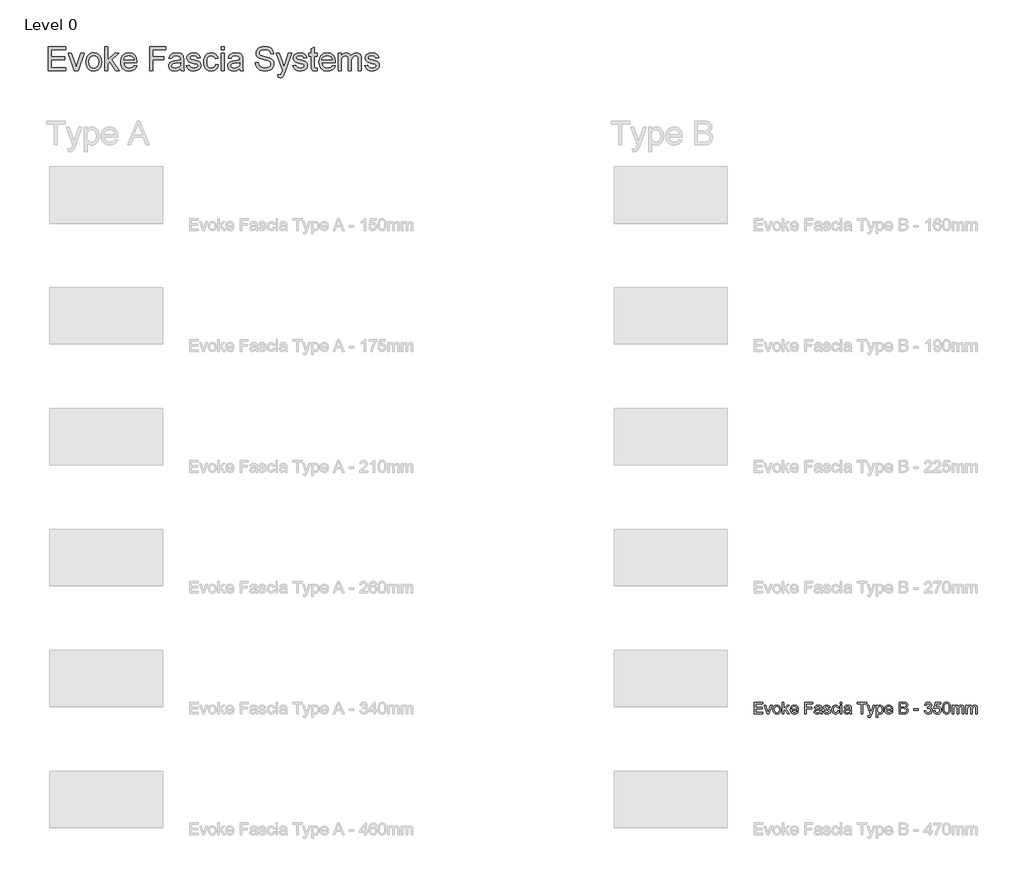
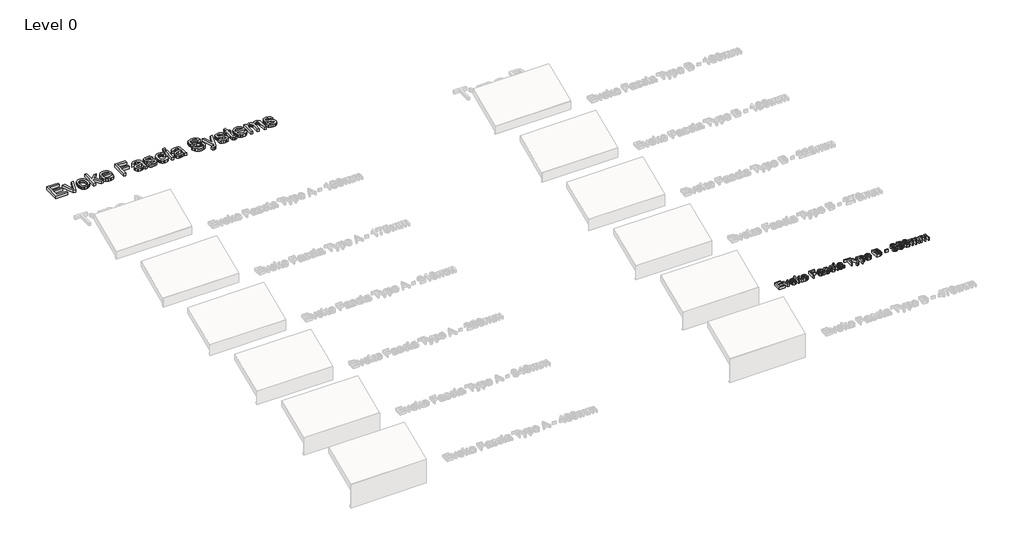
# One storey, part 8 of 13: 2 proxies.
"""IFC4 building model written with IfcOpenShell, lengths in millimetres."""

from ifc_helpers import new_model, si_unit, origin, origin_with_axes, place, context, project, spatial, polyline, outline, extrude, element, save

model = new_model("IFC4")

# Units and contexts
model_context = context("Model", 3, world=origin())
ifc_project = project(units=[si_unit("LENGTHUNIT", "METRE", prefix="MILLI")], contexts=[model_context])

# Site, building, storey
site = spatial("IfcSite", under=ifc_project)
building = spatial("IfcBuilding", under=site)
storey = spatial("IfcBuildingStorey", under=building, Name="Level 0", Elevation=0.0)

# Proxies
placement = place(None, origin())
element("IfcBuildingElementProxy", 1, Name="150mm Arial", ObjectType="150mm Arial", at=placement, inside=storey, context=model_context, shape_type="SweptSolid", body=[
    extrude(outline(polyline([(5568.7201043, 1360.6682311), (5568.7201043, 1508.3605388), (5674.8739504, 1508.3605388), (5674.8739504, 1489.8990003), (5587.1816427, 1489.8990003), (5587.1816427, 1446.0528465), (5670.2585658, 1446.0528465), (5670.2585658, 1427.591308), (5587.1816427, 1427.591308), (5587.1816427, 1379.1297695), (5677.1816427, 1379.1297695), (5677.1816427, 1360.6682311), (5568.7201043, 1360.6682311)])), origin_with_axes(), (0.0, 0.0, 1.0), 50.0),
    extrude(outline(polyline([(5729.176835, 1360.6682311), (5691.0277966, 1469.1297695), (5710.5710658, 1469.1297695), (5733.6840466, 1404.153808), (5740.6431812, 1382.3028465), (5747.458085, 1402.9278465), (5770.7152966, 1469.1297695), (5790.2585658, 1469.1297695), (5752.5782774, 1360.6682311), (5729.176835, 1360.6682311)])), origin_with_axes(), (0.0, 0.0, 1.0), 50.0),
    extrude(outline(polyline([(5801.7970274, 1414.8990003), (5805.7904168, 1441.0498416), (5817.770585, 1459.4302503), (5832.5722677, 1468.435659), (5850.2946235, 1471.4374618), (5869.6891548, 1467.7821133), (5885.1804408, 1456.8160676), (5895.3351884, 1439.4047094), (5898.7201043, 1416.4134234), (5897.22371, 1397.762582), (5892.7345274, 1383.5648657), (5885.3832653, 1372.9323537), (5875.3006331, 1364.9771253), (5863.3249721, 1360.0146854), (5850.2946235, 1358.3605388), (5830.6657173, 1362.0023657), (5815.19246, 1372.9278465), (5805.1458855, 1390.7042888), (5801.7970274, 1414.8990003)]), holes=[polyline([(5820.2585658, 1414.935058), (5822.3949841, 1398.2268248), (5828.8042389, 1386.3232791), (5838.4496716, 1379.1973777), (5850.2946235, 1376.8220772), (5862.0854889, 1379.2108993), (5871.7128927, 1386.3773657), (5878.1221475, 1398.4386638), (5880.2585658, 1415.5119811), (5878.1086259, 1431.7334354), (5871.6588062, 1443.4747215), (5862.0178807, 1450.6006229), (5850.2946235, 1452.9759234), (5838.4496716, 1450.6096373), (5828.8042389, 1443.5107791), (5822.3949841, 1431.6342767), (5820.2585658, 1414.935058)])]), origin_with_axes(), (0.0, 0.0, 1.0), 50.0),
    extrude(outline(polyline([(5919.489335, 1360.6682311), (5919.489335, 1508.3605388), (5937.9508735, 1508.3605388), (5937.9508735, 1428.997558), (5979.3451043, 1469.1297695), (6004.8739504, 1469.1297695), (5962.974912, 1428.4927503), (6007.1816427, 1360.6682311), (5985.6191427, 1360.6682311), (5949.7417389, 1415.6562118), (5937.9508735, 1404.2259234), (5937.9508735, 1360.6682311), (5919.489335, 1360.6682311)])), origin_with_axes(), (0.0, 0.0, 1.0), 50.0),
    extrude(outline(polyline([(6099.2729889, 1392.9759234), (6117.3739504, 1390.6682311), (6110.8520153, 1377.029409), (6100.4448639, 1366.8340965), (6086.3868711, 1360.4789282), (6068.912412, 1358.3605388), (6047.2507533, 1362.0158873), (6030.583085, 1372.981933), (6019.9550802, 1390.5465364), (6016.412412, 1413.997558), (6019.9911379, 1438.2373416), (6030.7273158, 1456.3653465), (6047.1696235, 1467.669433), (6067.8667389, 1471.4374618), (6087.919323, 1467.6784474), (6103.94246, 1456.4014041), (6114.4487701, 1438.309457), (6117.9508735, 1414.1057311), (6117.8427004, 1409.1297695), (6034.8739504, 1409.1297695), (6038.0695634, 1395.310659), (6045.4929408, 1385.1514041), (6056.2065826, 1378.904409), (6069.2729889, 1376.8220772), (6087.3739504, 1380.6802503), (6099.2729889, 1392.9759234)]), holes=[polyline([(6034.8739504, 1427.591308), (6099.489335, 1427.591308), (6096.9923399, 1437.3449138), (6092.0975081, 1444.3220772), (6081.334287, 1450.8124618), (6067.7946235, 1452.9759234), (6055.3502124, 1451.2496614), (6045.0602485, 1446.0708753), (6037.9073038, 1437.9984594), (6034.8739504, 1427.591308)])]), origin_with_axes(), (0.0, 0.0, 1.0), 50.0),
    extrude(outline(polyline([(6196.412412, 1360.6682311), (6196.412412, 1508.3605388), (6295.6431812, 1508.3605388), (6295.6431812, 1489.8990003), (6214.8739504, 1489.8990003), (6214.8739504, 1446.0528465), (6284.1047197, 1446.0528465), (6284.1047197, 1427.591308), (6214.8739504, 1427.591308), (6214.8739504, 1360.6682311), (6196.412412, 1360.6682311)])), origin_with_axes(), (0.0, 0.0, 1.0), 50.0),
    extrude(outline(polyline([(6387.9508735, 1374.5143849), (6370.0482293, 1362.0023657), (6350.270585, 1358.3605388), (6334.8423999, 1360.5510436), (6323.4616908, 1367.122558), (6316.4439624, 1377.1015243), (6314.1047197, 1389.5143849), (6317.6383735, 1404.1177503), (6326.9232293, 1414.7187118), (6339.849912, 1420.7764041), (6355.8234697, 1423.5528465), (6387.8427004, 1429.8990003), (6387.9508735, 1434.0095772), (6386.6798399, 1442.2487599), (6382.8667389, 1447.6393849), (6374.3390947, 1451.6417888), (6362.458085, 1452.9759234), (6343.7802004, 1449.4242407), (6334.8739504, 1436.8220772), (6316.412412, 1439.1297695), (6324.3991908, 1457.1586157), (6340.4809216, 1467.7235195), (6364.8378927, 1471.4374618), (6387.2116908, 1468.1562118), (6399.849912, 1459.9170291), (6405.5109697, 1447.3869811), (6406.412412, 1431.2331349), (6406.412412, 1408.2643849), (6407.349912, 1376.1910676), (6411.0277966, 1360.6682311), (6392.5662581, 1360.6682311), (6387.9508735, 1374.5143849)]), holes=[polyline([(6387.9508735, 1411.4374618), (6358.1672197, 1405.7764041), (6342.2838062, 1402.7836157), (6335.0902966, 1397.9158272), (6332.5662581, 1390.8124618), (6338.0650562, 1380.8244811), (6354.2008735, 1376.8220772), (6372.8787581, 1381.2391445), (6384.9220274, 1391.9302503), (6387.8427004, 1406.2090965), (6387.9508735, 1411.4374618)])]), origin_with_axes(), (0.0, 0.0, 1.0), 50.0),
    extrude(outline(polyline([(6424.8739504, 1392.9759234), (6443.3354889, 1395.2836157), (6446.2471475, 1387.3869811), (6451.881162, 1381.5816926), (6471.4604889, 1376.8220772), (6490.2826043, 1381.185058), (6496.412412, 1391.4254426), (6490.2465466, 1399.7187118), (6471.2441427, 1404.9831349), (6443.443662, 1414.0155868), (6431.3102485, 1424.5624618), (6427.1816427, 1439.4542888), (6430.4989504, 1453.2102984), (6439.5494312, 1463.7211157), (6451.28621, 1469.1838561), (6467.1696235, 1471.4374618), (6489.6335658, 1467.8136638), (6503.912412, 1458.0059715), (6510.2585658, 1441.4374618), (6491.7970274, 1439.1297695), (6484.8559216, 1449.3160676), (6468.6119312, 1452.9759234), (6450.943662, 1449.4783272), (6445.6431812, 1441.3292888), (6447.8427004, 1435.9566926), (6454.7297197, 1431.8821734), (6470.631162, 1427.9518849), (6497.7285177, 1419.2619811), (6510.3126524, 1409.4182311), (6514.8739504, 1393.372558), (6509.5193831, 1375.7042888), (6494.068662, 1362.8857791), (6471.208085, 1358.3605388), (6452.5933014, 1360.5420291), (6439.0085658, 1367.0865003), (6429.9400562, 1377.9218368), (6424.8739504, 1392.9759234)])), origin_with_axes(), (0.0, 0.0, 1.0), 50.0),
    extrude(outline(polyline([(6604.8739504, 1399.8990003), (6623.3354889, 1397.591308), (6618.1882533, 1381.1715364), (6608.5157774, 1368.763183), (6595.2285177, 1360.9611998), (6579.2369312, 1358.3605388), (6559.5990105, 1361.9888441), (6544.2429408, 1372.8737599), (6534.3315826, 1390.5375219), (6531.0277966, 1414.5023657), (6536.6708254, 1445.169433), (6543.7922197, 1456.6673296), (6553.8703447, 1464.8749618), (6565.9271355, 1469.7968368), (6578.9845274, 1471.4374618), (6594.5839865, 1469.1838561), (6607.0554408, 1462.4230388), (6616.0022557, 1451.5155868), (6621.0277966, 1436.8220772), (6602.5662581, 1434.5143849), (6594.0025562, 1448.3425099), (6579.1287581, 1452.9759234), (6567.1981692, 1450.6952743), (6557.7285177, 1443.8533272), (6551.5491307, 1432.0804907), (6549.489335, 1415.0071734), (6551.5040586, 1397.7039883), (6557.5482293, 1385.8905868), (6566.8466067, 1379.0892046), (6578.6239504, 1376.8220772), (6588.1837461, 1378.2373416), (6596.021787, 1382.4831349), (6601.7234096, 1389.6676301), (6604.8739504, 1399.8990003)])), origin_with_axes(), (0.0, 0.0, 1.0), 50.0),
    extrude(outline(polyline([(6639.489335, 1489.8990003), (6639.489335, 1508.3605388), (6657.9508735, 1508.3605388), (6657.9508735, 1489.8990003), (6639.489335, 1489.8990003)])), origin_with_axes(), (0.0, 0.0, 1.0), 50.0),
    extrude(outline(polyline([(6639.489335, 1360.6682311), (6639.489335, 1469.1297695), (6657.9508735, 1469.1297695), (6657.9508735, 1360.6682311), (6639.489335, 1360.6682311)])), origin_with_axes(), (0.0, 0.0, 1.0), 50.0),
    extrude(outline(polyline([(6754.8739504, 1374.5143849), (6736.9713062, 1362.0023657), (6717.193662, 1358.3605388), (6701.7654769, 1360.5510436), (6690.3847677, 1367.122558), (6683.3670394, 1377.1015243), (6681.0277966, 1389.5143849), (6684.5614504, 1404.1177503), (6693.8463062, 1414.7187118), (6706.7729889, 1420.7764041), (6722.7465466, 1423.5528465), (6754.7657774, 1429.8990003), (6754.8739504, 1434.0095772), (6753.6029168, 1442.2487599), (6749.7898158, 1447.6393849), (6741.2621716, 1451.6417888), (6729.381162, 1452.9759234), (6710.7032774, 1449.4242407), (6701.7970274, 1436.8220772), (6683.3354889, 1439.1297695), (6691.3222677, 1457.1586157), (6707.4039985, 1467.7235195), (6731.7609697, 1471.4374618), (6754.1347677, 1468.1562118), (6766.7729889, 1459.9170291), (6772.4340466, 1447.3869811), (6773.3354889, 1431.2331349), (6773.3354889, 1408.2643849), (6774.2729889, 1376.1910676), (6777.9508735, 1360.6682311), (6759.489335, 1360.6682311), (6754.8739504, 1374.5143849)]), holes=[polyline([(6754.8739504, 1411.4374618), (6725.0902966, 1405.7764041), (6709.2068831, 1402.7836157), (6702.0133735, 1397.9158272), (6699.489335, 1390.8124618), (6704.9881331, 1380.8244811), (6721.1239504, 1376.8220772), (6739.801835, 1381.2391445), (6751.8451043, 1391.9302503), (6754.7657774, 1406.2090965), (6754.8739504, 1411.4374618)])]), origin_with_axes(), (0.0, 0.0, 1.0), 50.0),
    extrude(outline(polyline([(6895.6431812, 1360.6682311), (6895.6431812, 1489.8990003), (6847.1816427, 1489.8990003), (6847.1816427, 1508.3605388), (6962.5662581, 1508.3605388), (6962.5662581, 1489.8990003), (6914.1047197, 1489.8990003), (6914.1047197, 1360.6682311), (6895.6431812, 1360.6682311)])), origin_with_axes(), (0.0, 0.0, 1.0), 50.0),
    extrude(outline(polyline([(6981.0277966, 1319.1297695), (6978.7201043, 1336.9062118), (6988.0951043, 1335.2836157), (6996.8571235, 1337.3208753), (7002.2297197, 1342.9999618), (7007.2777966, 1356.5937118), (7008.7201043, 1361.0648657), (6969.489335, 1469.1297695), (6988.9604889, 1469.1297695), (7009.7657774, 1408.9134234), (7017.0133735, 1384.8268849), (7024.2609697, 1406.1009234), (7045.6431812, 1469.1297695), (7064.9701043, 1469.1297695), (7027.2177004, 1358.0720772), (7017.4100081, 1333.9855388), (7006.7008735, 1320.9687118), (6992.3138543, 1316.8220772), (6981.0277966, 1319.1297695)])), origin_with_axes(), (0.0, 0.0, 1.0), 50.0),
    extrude(outline(polyline([(7080.2585658, 1319.1297695), (7080.2585658, 1469.1297695), (7098.7201043, 1469.1297695), (7098.7201043, 1451.028808), (7111.4845274, 1466.3352984), (7128.7201043, 1471.4374618), (7141.2050802, 1469.6526061), (7152.1215466, 1464.2980388), (7161.0097677, 1455.6982791), (7167.4100081, 1444.1778465), (7172.5662581, 1415.7283272), (7171.1104288, 1399.9395652), (7166.7429408, 1385.8184715), (7159.6035177, 1374.0816926), (7149.8318831, 1365.4458753), (7138.451174, 1360.1318729), (7126.4845274, 1358.3605388), (7110.4208254, 1363.1021253), (7098.7201043, 1375.091308), (7098.7201043, 1319.1297695), (7080.2585658, 1319.1297695)]), holes=[polyline([(7098.7201043, 1414.0336157), (7100.716799, 1397.4831349), (7106.7068831, 1385.9086157), (7115.5455249, 1379.0937118), (7126.0878927, 1376.8220772), (7136.8015346, 1379.1748416), (7145.865537, 1386.2331349), (7152.044924, 1398.231332), (7154.1047197, 1415.403808), (7152.0945033, 1431.8641445), (7146.0638543, 1443.6009234), (7137.2387341, 1450.6321734), (7126.8451043, 1452.9759234), (7116.4109096, 1450.4834354), (7107.2477485, 1443.0059715), (7100.8520153, 1430.7779066), (7098.7201043, 1414.0336157)])]), origin_with_axes(), (0.0, 0.0, 1.0), 50.0),
    extrude(outline(polyline([(7269.2729889, 1392.9759234), (7287.3739504, 1390.6682311), (7280.8520153, 1377.029409), (7270.4448639, 1366.8340965), (7256.3868711, 1360.4789282), (7238.912412, 1358.3605388), (7217.2507533, 1362.0158873), (7200.583085, 1372.981933), (7189.9550802, 1390.5465364), (7186.412412, 1413.997558), (7189.9911379, 1438.2373416), (7200.7273158, 1456.3653465), (7217.1696235, 1467.669433), (7237.8667389, 1471.4374618), (7257.919323, 1467.6784474), (7273.94246, 1456.4014041), (7284.4487701, 1438.309457), (7287.9508735, 1414.1057311), (7287.8427004, 1409.1297695), (7204.8739504, 1409.1297695), (7208.0695634, 1395.310659), (7215.4929408, 1385.1514041), (7226.2065826, 1378.904409), (7239.2729889, 1376.8220772), (7257.3739504, 1380.6802503), (7269.2729889, 1392.9759234)]), holes=[polyline([(7204.8739504, 1427.591308), (7269.489335, 1427.591308), (7266.9923399, 1437.3449138), (7262.0975081, 1444.3220772), (7251.334287, 1450.8124618), (7237.7946235, 1452.9759234), (7225.3502124, 1451.2496614), (7215.0602485, 1446.0708753), (7207.9073038, 1437.9984594), (7204.8739504, 1427.591308)])]), origin_with_axes(), (0.0, 0.0, 1.0), 50.0),
    extrude(outline(polyline([(7366.412412, 1360.6682311), (7366.412412, 1508.3605388), (7422.770585, 1508.3605388), (7450.3727485, 1504.0155868), (7459.6485899, 1498.5032671), (7466.6708254, 1490.6562118), (7472.5662581, 1471.7619811), (7467.6083254, 1454.5083753), (7452.6263543, 1441.4374618), (7463.0875923, 1435.9747215), (7470.81746, 1427.6634234), (7475.5905971, 1417.0534474), (7477.1816427, 1404.6946734), (7472.8366908, 1384.8449138), (7462.0734697, 1370.7102984), (7446.0097677, 1363.2102984), (7422.3378927, 1360.6682311), (7366.412412, 1360.6682311)]), holes=[polyline([(7384.8739504, 1448.3605388), (7418.5878927, 1448.3605388), (7438.2753927, 1449.9470772), (7450.1203447, 1456.7800099), (7454.1047197, 1468.8052503), (7450.3907774, 1480.8485195), (7439.7537581, 1487.9699138), (7416.0277966, 1489.8990003), (7384.8739504, 1489.8990003), (7384.8739504, 1448.3605388)]), polyline([(7384.8739504, 1379.1297695), (7422.7345274, 1379.1297695), (7436.4364504, 1379.8509234), (7448.0289985, 1383.8713561), (7455.709287, 1392.0744811), (7458.7201043, 1404.5143849), (7455.1864504, 1418.8653465), (7443.7381331, 1427.4290484), (7420.9316427, 1429.8990003), (7384.8739504, 1429.8990003), (7384.8739504, 1379.1297695)])]), origin_with_axes(), (0.0, 0.0, 1.0), 50.0),
    extrude(outline(polyline([(7548.7201043, 1404.5143849), (7548.7201043, 1422.9759234), (7606.412412, 1422.9759234), (7606.412412, 1404.5143849), (7548.7201043, 1404.5143849)])), origin_with_axes(), (0.0, 0.0, 1.0), 50.0),
    extrude(outline(polyline([(7680.2585658, 1399.8990003), (7698.7201043, 1402.2066926), (7702.8532173, 1390.6051301), (7708.9064024, 1382.7715965), (7717.1771355, 1378.309457), (7727.9628927, 1376.8220772), (7740.6191427, 1378.8683513), (7750.3907774, 1385.0071734), (7756.6377725, 1394.1658272), (7758.7201043, 1405.2715965), (7756.6558014, 1415.8139642), (7750.4628927, 1424.3641445), (7741.0878927, 1430.0297094), (7729.4773158, 1431.9182311), (7716.5326043, 1429.8990003), (7718.5878927, 1448.3605388), (7721.5446235, 1448.1441926), (7742.4941427, 1453.4446734), (7749.4713062, 1460.169433), (7751.7970274, 1469.7427503), (7750.1113302, 1477.7160075), (7745.0542389, 1484.1838561), (7737.3378927, 1488.4702142), (7727.6744312, 1489.8990003), (7717.9929408, 1488.4566926), (7710.0782774, 1484.1297695), (7704.3000322, 1476.9182311), (7701.0277966, 1466.8220772), (7682.5662581, 1469.1297695), (7688.0019552, 1485.7072936), (7697.6744312, 1498.0840965), (7710.9076043, 1505.7914282), (7727.0253927, 1508.3605388), (7749.2910177, 1503.294433), (7764.8679408, 1489.4482791), (7770.2585658, 1470.8244811), (7765.1383735, 1453.8052503), (7749.9941427, 1441.5816926), (7761.5506331, 1436.9122215), (7770.114335, 1428.9615003), (7775.4148158, 1418.1622215), (7777.1816427, 1404.9470772), (7773.6479889, 1386.9542888), (7763.0470274, 1371.9182311), (7747.0464264, 1361.7499618), (7727.3138543, 1358.3605388), (7709.4652966, 1361.2541686), (7694.9340466, 1369.935058), (7684.8288783, 1383.2133032), (7680.2585658, 1399.8990003)])), origin_with_axes(), (0.0, 0.0, 1.0), 50.0),
    extrude(outline(polyline([(7793.3354889, 1399.8990003), (7811.7970274, 1402.2066926), (7815.1864504, 1391.1234594), (7821.099912, 1383.1862599), (7829.5103687, 1378.4131229), (7840.3907774, 1376.8220772), (7853.6239504, 1379.0351181), (7863.5398158, 1385.6742407), (7869.7327245, 1395.9732191), (7871.7970274, 1409.1658272), (7869.8634336, 1421.5877022), (7864.0626524, 1431.0889041), (7854.3496115, 1437.1195532), (7840.6792389, 1439.1297695), (7824.4713062, 1435.9206349), (7814.1047197, 1427.591308), (7795.6431812, 1429.8990003), (7811.7970274, 1506.0528465), (7883.3354889, 1506.0528465), (7883.3354889, 1487.591308), (7826.724912, 1487.591308), (7818.8282774, 1446.9182311), (7832.0163783, 1454.9230388), (7845.8354889, 1457.591308), (7863.0845874, 1454.2830147), (7877.4039985, 1444.3581349), (7887.044924, 1429.231933), (7890.2585658, 1410.3196734), (7887.364936, 1391.8581349), (7878.6840466, 1376.0648657), (7862.0614504, 1362.7866205), (7840.318662, 1358.3605388), (7822.1861499, 1361.2045892), (7807.740537, 1369.7367407), (7797.8381932, 1382.9654066), (7793.3354889, 1399.8990003)])), origin_with_axes(), (0.0, 0.0, 1.0), 50.0),
    extrude(outline(polyline([(7906.412412, 1433.3244811), (7907.7690826, 1456.9648056), (7911.8390947, 1475.8184715), (7918.5818831, 1490.1739402), (7927.9568831, 1500.3196734), (7940.0317028, 1506.3503224), (7954.8739504, 1508.3605388), (7976.4364504, 1503.6009234), (7991.3282774, 1489.8809715), (7999.9821235, 1468.0300099), (8003.3354889, 1433.3244811), (8001.9923399, 1409.8193729), (7997.9628927, 1391.0107791), (7991.2606692, 1376.6417888), (7981.8991908, 1366.4554907), (7969.7973278, 1360.3842767), (7954.8739504, 1358.3605388), (7935.6912581, 1361.8761638), (7921.1239504, 1372.4230388), (7910.0902966, 1397.4020051), (7906.412412, 1433.3244811)]), holes=[polyline([(7924.8739504, 1433.3605388), (7927.037412, 1404.3205748), (7933.5277966, 1387.513183), (7943.1912581, 1379.4948537), (7954.8739504, 1376.8220772), (7966.5566427, 1379.5038681), (7976.2201043, 1387.5492407), (7982.7104889, 1404.3656469), (7984.8739504, 1433.3605388), (7982.7826043, 1461.746957), (7976.5085658, 1478.685058), (7966.8631331, 1487.0955147), (7954.6576043, 1489.8990003), (7943.1011139, 1487.4290484), (7933.8162581, 1480.0191926), (7927.1095274, 1462.0264041), (7924.8739504, 1433.3605388)])]), origin_with_axes(), (0.0, 0.0, 1.0), 50.0),
    extrude(outline(polyline([(8024.1047197, 1360.6682311), (8024.1047197, 1469.1297695), (8042.5662581, 1469.1297695), (8042.5662581, 1451.2812118), (8055.2585658, 1465.9026061), (8073.3234697, 1471.4374618), (8083.5908975, 1470.0267046), (8091.8210658, 1465.794433), (8101.989335, 1449.9831349), (8116.3943831, 1466.0738801), (8134.5854889, 1471.4374618), (8148.4631932, 1469.2063921), (8158.7261139, 1462.513183), (8165.0677605, 1451.177546), (8167.1816427, 1435.0191926), (8167.1816427, 1360.6682311), (8148.7201043, 1360.6682311), (8148.7201043, 1427.0865003), (8147.0073639, 1442.5011638), (8140.8054408, 1450.091308), (8130.2585658, 1452.9759234), (8120.2570634, 1451.1279666), (8112.1035177, 1445.5840965), (8106.6813423, 1435.965707), (8104.8739504, 1421.8941926), (8104.8739504, 1360.6682311), (8086.412412, 1360.6682311), (8086.412412, 1429.1417888), (8082.1395754, 1447.0264041), (8076.5010538, 1451.4885436), (8068.131162, 1452.9759234), (8054.4652966, 1449.0095772), (8045.3787581, 1437.3990003), (8042.5662581, 1415.3677503), (8042.5662581, 1360.6682311), (8024.1047197, 1360.6682311)])), origin_with_axes(), (0.0, 0.0, 1.0), 50.0),
    extrude(outline(polyline([(8194.8739504, 1360.6682311), (8194.8739504, 1469.1297695), (8213.3354889, 1469.1297695), (8213.3354889, 1451.2812118), (8226.0277966, 1465.9026061), (8244.0927004, 1471.4374618), (8254.3601283, 1470.0267046), (8262.5902966, 1465.794433), (8272.7585658, 1449.9831349), (8287.1636139, 1466.0738801), (8305.3547197, 1471.4374618), (8319.232424, 1469.2063921), (8329.4953447, 1462.513183), (8335.8369913, 1451.177546), (8337.9508735, 1435.0191926), (8337.9508735, 1360.6682311), (8319.489335, 1360.6682311), (8319.489335, 1427.0865003), (8317.7765947, 1442.5011638), (8311.5746716, 1450.091308), (8301.0277966, 1452.9759234), (8291.0262942, 1451.1279666), (8282.8727485, 1445.5840965), (8277.450573, 1435.965707), (8275.6431812, 1421.8941926), (8275.6431812, 1360.6682311), (8257.1816427, 1360.6682311), (8257.1816427, 1429.1417888), (8252.9088062, 1447.0264041), (8247.2702846, 1451.4885436), (8238.9003927, 1452.9759234), (8225.2345274, 1449.0095772), (8216.1479889, 1437.3990003), (8213.3354889, 1415.3677503), (8213.3354889, 1360.6682311), (8194.8739504, 1360.6682311)])), origin_with_axes(), (0.0, 0.0, 1.0), 50.0),
])
element("IfcBuildingElementProxy", 2, Name="300mm Arial", ObjectType="300mm Arial", at=placement, inside=storey, context=model_context, shape_type="SweptSolid", body=[
    extrude(outline(polyline([(-3182.8930025, 9342.9991301), (-3182.8930025, 9638.3837455), (-2970.5853102, 9638.3837455), (-2970.5853102, 9601.4606686), (-3145.9699256, 9601.4606686), (-3145.9699256, 9513.7683609), (-2979.8160795, 9513.7683609), (-2979.8160795, 9476.845284), (-3145.9699256, 9476.845284), (-3145.9699256, 9379.9222071), (-2965.9699256, 9379.9222071), (-2965.9699256, 9342.9991301), (-3182.8930025, 9342.9991301)])), origin_with_axes(), (0.0, 0.0, 1.0), 50.0),
    extrude(outline(polyline([(-2861.979541, 9342.9991301), (-2938.2776179, 9559.9222071), (-2899.1910795, 9559.9222071), (-2852.9651179, 9429.970284), (-2839.0468487, 9386.2683609), (-2825.417041, 9427.5183609), (-2778.9026179, 9559.9222071), (-2739.8160795, 9559.9222071), (-2815.1766564, 9342.9991301), (-2861.979541, 9342.9991301)])), origin_with_axes(), (0.0, 0.0, 1.0), 50.0),
    extrude(outline(polyline([(-2716.7391564, 9451.4606686), (-2714.7424617, 9479.5541181), (-2708.7523775, 9503.7623513), (-2698.768904, 9524.0853681), (-2684.792041, 9540.5231686), (-2670.7205266, 9551.0294787), (-2655.1886756, 9558.5339859), (-2638.1964881, 9563.0366902), (-2619.7439641, 9564.5375917), (-2599.3736215, 9562.7099174), (-2580.9549016, 9557.2268946), (-2564.4878042, 9548.0885232), (-2549.9723295, 9535.2948032), (-2538.1251239, 9519.278427), (-2529.6628343, 9500.4720869), (-2524.5854605, 9478.8757828), (-2522.8930025, 9454.4895147), (-2525.885791, 9417.1878321), (-2534.8641564, 9388.7923994), (-2549.5666804, 9367.5273753), (-2569.7319448, 9351.6169186), (-2593.683267, 9341.6920388), (-2619.7439641, 9338.3837455), (-2640.4117826, 9340.204659), (-2659.0017766, 9345.6673994), (-2675.513946, 9354.7719667), (-2689.948291, 9367.5183609), (-2701.6692946, 9383.6902359), (-2710.04144, 9403.0712455), (-2715.0647273, 9425.6613897), (-2716.7391564, 9451.4606686)]), holes=[polyline([(-2679.8160795, 9451.532784), (-2675.5432429, 9418.1163176), (-2662.7247333, 9394.3092263), (-2643.4338679, 9380.0574234), (-2619.7439641, 9375.3068224), (-2596.1622333, 9380.0844667), (-2576.9074256, 9394.4173994), (-2564.088916, 9418.5399955), (-2559.8160795, 9452.6866301), (-2564.1159593, 9485.1295388), (-2577.0155987, 9508.6121109), (-2596.2974497, 9522.8639138), (-2619.7439641, 9527.6145147), (-2643.4338679, 9522.8819426), (-2662.7247333, 9508.6842263), (-2675.5432429, 9484.9312215), (-2679.8160795, 9451.532784)])]), origin_with_axes(), (0.0, 0.0, 1.0), 50.0),
    extrude(outline(polyline([(-2481.354541, 9342.9991301), (-2481.354541, 9638.3837455), (-2444.4314641, 9638.3837455), (-2444.4314641, 9479.657784), (-2361.6430025, 9559.9222071), (-2310.5853102, 9559.9222071), (-2394.3833872, 9478.6481686), (-2305.9699256, 9342.9991301), (-2349.0949256, 9342.9991301), (-2420.8497333, 9452.9750917), (-2444.4314641, 9430.1145147), (-2444.4314641, 9342.9991301), (-2481.354541, 9342.9991301)])), origin_with_axes(), (0.0, 0.0, 1.0), 50.0),
    extrude(outline(polyline([(-2121.7872333, 9407.6145147), (-2085.5853102, 9402.9991301), (-2098.6291804, 9375.7214859), (-2119.4434833, 9355.3308609), (-2147.5594689, 9342.6205244), (-2182.5083872, 9338.3837455), (-2205.4185434, 9340.2114198), (-2225.8317045, 9345.6944426), (-2243.7478703, 9354.832814), (-2259.167041, 9367.626534), (-2271.5663799, 9383.7195328), (-2280.4230506, 9402.7557407), (-2285.737053, 9424.7351578), (-2287.5083872, 9449.657784), (-2285.7190242, 9475.4255123), (-2280.3509352, 9498.1373513), (-2271.4041203, 9517.7933008), (-2258.8785795, 9534.3933609), (-2243.4999737, 9547.5814619), (-2225.9939641, 9557.001534), (-2206.3605506, 9562.6535772), (-2184.5997333, 9564.5375917), (-2163.5397874, 9562.6580845), (-2144.494565, 9557.0195628), (-2127.4640662, 9547.6220268), (-2112.448291, 9534.4654763), (-2100.1909292, 9517.9014739), (-2091.4356708, 9498.2815821), (-2086.1825158, 9475.6058008), (-2084.4314641, 9449.8741301), (-2084.6478102, 9439.9222071), (-2250.5853102, 9439.9222071), (-2244.1940843, 9412.2839859), (-2229.3473295, 9391.9654763), (-2207.9200458, 9379.4714859), (-2181.7872333, 9375.3068224), (-2162.135791, 9377.235909), (-2145.5853102, 9383.0231686), (-2132.135791, 9393.0291782), (-2121.7872333, 9407.6145147)]), holes=[polyline([(-2250.5853102, 9476.845284), (-2121.354541, 9476.845284), (-2126.3485314, 9496.3524955), (-2136.1381948, 9510.3068224), (-2157.6646372, 9523.2875917), (-2184.7439641, 9527.6145147), (-2209.6327862, 9524.1619907), (-2230.2127141, 9513.8044186), (-2244.5186035, 9497.6595869), (-2250.5853102, 9476.845284)])]), origin_with_axes(), (0.0, 0.0, 1.0), 50.0),
    extrude(outline(polyline([(-1927.5083872, 9342.9991301), (-1927.5083872, 9638.3837455), (-1729.0468487, 9638.3837455), (-1729.0468487, 9601.4606686), (-1890.5853102, 9601.4606686), (-1890.5853102, 9513.7683609), (-1752.1237718, 9513.7683609), (-1752.1237718, 9476.845284), (-1890.5853102, 9476.845284), (-1890.5853102, 9342.9991301), (-1927.5083872, 9342.9991301)])), origin_with_axes(), (0.0, 0.0, 1.0), 50.0),
    extrude(outline(polyline([(-1544.4314641, 9370.6914378), (-1562.07269, 9355.5652359), (-1580.2367525, 9345.6673994), (-1599.338315, 9340.204659), (-1619.792041, 9338.3837455), (-1650.6484112, 9342.7647551), (-1673.4098295, 9355.907784), (-1687.4452862, 9375.8657167), (-1692.1237718, 9400.6914378), (-1690.3569448, 9415.9979282), (-1685.0564641, 9429.8981686), (-1676.8803823, 9441.7972071), (-1666.4867525, 9451.1000917), (-1640.6333872, 9463.2154763), (-1608.6862718, 9468.7683609), (-1570.9338679, 9474.6097071), (-1544.6478102, 9481.4606686), (-1544.4314641, 9489.6818224), (-1546.9735314, 9506.1601878), (-1554.5997333, 9516.9414378), (-1571.6550218, 9524.9462455), (-1595.417041, 9527.6145147), (-1617.4122333, 9525.8386734), (-1632.7728102, 9520.5111494), (-1643.2475698, 9510.6583849), (-1650.5853102, 9495.3068224), (-1687.5083872, 9499.9222071), (-1681.0991323, 9520.1145147), (-1671.5348295, 9535.9798994), (-1657.9230506, 9548.1133128), (-1639.3713679, 9557.1097071), (-1616.682065, 9562.6806205), (-1590.6574256, 9564.5375917), (-1565.6964881, 9562.8969667), (-1545.9098295, 9557.9750917), (-1530.9909593, 9550.5742503), (-1520.6333872, 9541.4967263), (-1513.7643968, 9530.2737696), (-1509.3112718, 9516.4366301), (-1507.5083872, 9484.1289378), (-1507.5083872, 9438.1914378), (-1505.6333872, 9374.0448032), (-1498.2776179, 9342.9991301), (-1535.2006948, 9342.9991301), (-1544.4314641, 9370.6914378)]), holes=[polyline([(-1544.4314641, 9444.5375917), (-1603.9987718, 9433.2154763), (-1635.7655987, 9427.2298994), (-1650.1526179, 9417.4943224), (-1655.2006948, 9403.2875917), (-1652.4512958, 9392.3080244), (-1644.2030987, 9383.3116301), (-1630.636392, 9377.3080244), (-1611.9314641, 9375.3068224), (-1592.0997333, 9377.5153561), (-1574.5756948, 9384.1409571), (-1560.3689641, 9393.9035772), (-1550.4891564, 9405.5231686), (-1546.1081468, 9417.4943224), (-1544.6478102, 9434.0808609), (-1544.4314641, 9444.5375917)])]), origin_with_axes(), (0.0, 0.0, 1.0), 50.0),
    extrude(outline(polyline([(-1470.5853102, 9407.6145147), (-1433.6622333, 9412.2298994), (-1427.838916, 9396.4366301), (-1416.5708872, 9384.8260532), (-1399.7860314, 9377.6866301), (-1377.4122333, 9375.3068224), (-1355.3088679, 9377.4883128), (-1339.7680025, 9384.032784), (-1330.573291, 9393.5159571), (-1327.5083872, 9404.5135532), (-1330.5913198, 9413.9246109), (-1339.8401179, 9421.1000917), (-1377.8449256, 9431.6289378), (-1433.4458872, 9449.6938417), (-1447.5174016, 9458.7713657), (-1457.7127141, 9470.7875917), (-1463.9056227, 9484.9762936), (-1465.9699256, 9500.5712455), (-1464.3112718, 9514.8771349), (-1459.3353102, 9528.0832647), (-1451.4927622, 9539.6667984), (-1441.2343487, 9549.1048994), (-1417.760791, 9560.0303801), (-1385.9939641, 9564.5375917), (-1361.9615122, 9562.7256926), (-1341.0660795, 9557.2899955), (-1324.2631948, 9548.7623513), (-1312.5083872, 9537.6746109), (-1304.7199256, 9523.2064619), (-1299.8160795, 9504.5375917), (-1336.7391564, 9499.9222071), (-1341.3996131, 9511.5417984), (-1350.6213679, 9520.2948032), (-1364.494565, 9525.7845869), (-1383.1093487, 9527.6145147), (-1404.3112718, 9525.8657167), (-1418.4458872, 9520.6193224), (-1426.3966083, 9513.0472071), (-1429.0468487, 9504.3212455), (-1424.6478102, 9493.5760532), (-1410.8737718, 9485.4270147), (-1379.0708872, 9477.5664378), (-1324.8761756, 9460.1866301), (-1310.5612718, 9451.8753321), (-1299.7079064, 9440.4991301), (-1292.8659593, 9426.0219667), (-1290.5853102, 9408.407784), (-1293.2625939, 9390.1986494), (-1301.2944448, 9373.0712455), (-1314.3743727, 9358.3687215), (-1332.1958872, 9347.4342263), (-1353.7223295, 9340.6463657), (-1377.917041, 9338.3837455), (-1415.1466083, 9342.7467263), (-1442.3160795, 9355.8356686), (-1460.4530987, 9377.5063417), (-1470.5853102, 9407.6145147)])), origin_with_axes(), (0.0, 0.0, 1.0), 50.0),
    extrude(outline(polyline([(-1110.5853102, 9421.4606686), (-1073.6622333, 9416.845284), (-1083.9567045, 9384.0057407), (-1103.3016564, 9359.189034), (-1129.8761756, 9343.5850676), (-1161.8593487, 9338.3837455), (-1182.5677321, 9340.1978982), (-1201.13519, 9345.6403561), (-1217.5617225, 9354.7111193), (-1231.8473295, 9367.4101878), (-1243.4105807, 9383.4986794), (-1251.6700458, 9402.7377119), (-1256.6257249, 9425.1272852), (-1258.2776179, 9450.6673994), (-1255.4561035, 9483.5249715), (-1246.9915602, 9512.001534), (-1232.7487718, 9534.9973272), (-1212.5925218, 9551.4125917), (-1188.47894, 9561.2563417), (-1162.3641564, 9564.5375917), (-1131.1652381, 9560.0303801), (-1106.2223295, 9546.5087455), (-1088.3286997, 9524.6938417), (-1078.2776179, 9495.3068224), (-1115.2006948, 9490.6914378), (-1121.8984112, 9506.8002119), (-1132.3280987, 9518.3476878), (-1145.9128343, 9525.297808), (-1162.0756948, 9527.6145147), (-1185.9368727, 9523.0532167), (-1204.8761756, 9509.3693224), (-1217.2349497, 9485.8236494), (-1221.354541, 9451.6770147), (-1217.3250939, 9417.0706446), (-1205.2367525, 9393.4438417), (-1186.6399977, 9379.8410772), (-1163.0853102, 9375.3068224), (-1143.9657189, 9378.1373513), (-1128.2896372, 9386.6289378), (-1116.886392, 9400.9979282), (-1110.5853102, 9421.4606686)])), origin_with_axes(), (0.0, 0.0, 1.0), 50.0),
    extrude(outline(polyline([(-1041.354541, 9601.4606686), (-1041.354541, 9638.3837455), (-1004.4314641, 9638.3837455), (-1004.4314641, 9601.4606686), (-1041.354541, 9601.4606686)])), origin_with_axes(), (0.0, 0.0, 1.0), 50.0),
    extrude(outline(polyline([(-1041.354541, 9342.9991301), (-1041.354541, 9559.9222071), (-1004.4314641, 9559.9222071), (-1004.4314641, 9342.9991301), (-1041.354541, 9342.9991301)])), origin_with_axes(), (0.0, 0.0, 1.0), 50.0),
    extrude(outline(polyline([(-810.5853102, 9370.6914378), (-828.2265362, 9355.5652359), (-846.3905987, 9345.6673994), (-865.4921612, 9340.204659), (-885.9458872, 9338.3837455), (-916.8022573, 9342.7647551), (-939.5636756, 9355.907784), (-953.5991323, 9375.8657167), (-958.2776179, 9400.6914378), (-956.510791, 9415.9979282), (-951.2103102, 9429.8981686), (-943.0342285, 9441.7972071), (-932.6405987, 9451.1000917), (-906.7872333, 9463.2154763), (-874.8401179, 9468.7683609), (-837.0877141, 9474.6097071), (-810.8016564, 9481.4606686), (-810.5853102, 9489.6818224), (-813.1273775, 9506.1601878), (-820.7535795, 9516.9414378), (-837.8088679, 9524.9462455), (-861.5708872, 9527.6145147), (-883.5660795, 9525.8386734), (-898.9266564, 9520.5111494), (-909.401416, 9510.6583849), (-916.7391564, 9495.3068224), (-953.6622333, 9499.9222071), (-947.2529785, 9520.1145147), (-937.6886756, 9535.9798994), (-924.0768968, 9548.1133128), (-905.5252141, 9557.1097071), (-882.8359112, 9562.6806205), (-856.8112718, 9564.5375917), (-831.8503343, 9562.8969667), (-812.0636756, 9557.9750917), (-797.1448054, 9550.5742503), (-786.7872333, 9541.4967263), (-779.9182429, 9530.2737696), (-775.4651179, 9516.4366301), (-773.6622333, 9484.1289378), (-773.6622333, 9438.1914378), (-771.7872333, 9374.0448032), (-764.4314641, 9342.9991301), (-801.354541, 9342.9991301), (-810.5853102, 9370.6914378)]), holes=[polyline([(-810.5853102, 9444.5375917), (-870.1526179, 9433.2154763), (-901.9194448, 9427.2298994), (-916.3064641, 9417.4943224), (-921.354541, 9403.2875917), (-918.605142, 9392.3080244), (-910.3569448, 9383.3116301), (-896.7902381, 9377.3080244), (-878.0853102, 9375.3068224), (-858.2535795, 9377.5153561), (-840.729541, 9384.1409571), (-826.5228102, 9393.9035772), (-816.6430025, 9405.5231686), (-812.2619929, 9417.4943224), (-810.8016564, 9434.0808609), (-810.5853102, 9444.5375917)])]), origin_with_axes(), (0.0, 0.0, 1.0), 50.0),
    extrude(outline(polyline([(-616.7391564, 9444.5375917), (-579.8160795, 9444.5375917), (-575.5793006, 9424.047808), (-567.917041, 9407.5784571), (-555.963916, 9394.5075436), (-538.854541, 9384.2130724), (-517.9410795, 9377.5333849), (-494.5756948, 9375.3068224), (-474.0047814, 9376.9925196), (-455.9939641, 9382.0496109), (-441.3996131, 9390.0544186), (-431.0780987, 9400.5832647), (-424.9392766, 9412.6716061), (-422.8930025, 9425.3548994), (-424.4254545, 9437.7136734), (-429.0228102, 9448.3957647), (-438.3617525, 9457.5093465), (-454.1189641, 9465.1625917), (-507.8809833, 9479.2611494), (-543.1724497, 9488.5910772), (-565.7535795, 9497.470284), (-584.1339881, 9509.892159), (-597.1598295, 9524.9462455), (-604.9212477, 9542.3080244), (-607.5083872, 9561.6529763), (-604.308267, 9583.2785772), (-594.7079064, 9603.4438417), (-578.9597093, 9620.5351878), (-557.3160795, 9632.939034), (-531.3365122, 9640.4841061), (-502.5805025, 9642.9991301), (-471.4266564, 9640.3669186), (-444.167041, 9632.470284), (-421.7752141, 9619.4714859), (-405.2247333, 9601.532784), (-394.7499737, 9579.7719667), (-390.5853102, 9555.3068224), (-427.5083872, 9555.3068224), (-434.2872333, 9577.3380724), (-448.4218487, 9593.2395147), (-470.5071852, 9602.8669186), (-501.1381948, 9606.0760532), (-532.4903583, 9602.9029763), (-553.9987718, 9593.3837455), (-566.4386756, 9579.3753321), (-570.5853102, 9562.7347071), (-567.6466083, 9548.5460051), (-558.8305025, 9537.1337455), (-537.9891564, 9526.9294186), (-498.542041, 9516.5087455), (-433.2055025, 9497.9750917), (-412.1568247, 9484.579659), (-397.4723295, 9468.0472071), (-388.8455266, 9448.5580244), (-385.9699256, 9426.2923994), (-389.2782189, 9403.5309811), (-399.2030987, 9382.1217263), (-415.338916, 9363.6962455), (-437.2800218, 9349.8861494), (-463.6652381, 9341.2593465), (-493.1333872, 9338.3837455), (-529.308267, 9341.4847071), (-559.0829064, 9350.7875917), (-582.7998535, 9366.3284571), (-600.8016564, 9388.1433609), (-612.3581468, 9414.7178801), (-616.7391564, 9444.5375917)])), origin_with_axes(), (0.0, 0.0, 1.0), 50.0),
    extrude(outline(polyline([(-335.2006948, 9259.9222071), (-339.8160795, 9295.4750917), (-321.0660795, 9292.2298994), (-303.542041, 9296.3044186), (-292.7968487, 9307.6625917), (-282.7006948, 9334.8500917), (-279.8160795, 9343.7923994), (-358.2776179, 9559.9222071), (-319.3353102, 9559.9222071), (-277.7247333, 9439.4895147), (-263.229541, 9391.3164378), (-248.7343487, 9433.8645147), (-205.9699256, 9559.9222071), (-167.3160795, 9559.9222071), (-242.8208872, 9337.8068224), (-262.4362718, 9289.6337455), (-272.4783391, 9274.2551397), (-283.854541, 9263.6000917), (-297.0696852, 9257.3801397), (-312.6285795, 9255.3068224), (-335.2006948, 9259.9222071)])), origin_with_axes(), (0.0, 0.0, 1.0), 50.0),
    extrude(outline(polyline([(-150.5853102, 9407.6145147), (-113.6622333, 9412.2298994), (-107.838916, 9396.4366301), (-96.5708872, 9384.8260532), (-79.7860314, 9377.6866301), (-57.4122333, 9375.3068224), (-35.3088679, 9377.4883128), (-19.7680025, 9384.032784), (-10.573291, 9393.5159571), (-7.5083872, 9404.5135532), (-10.5913198, 9413.9246109), (-19.8401179, 9421.1000917), (-57.8449256, 9431.6289378), (-113.4458872, 9449.6938417), (-127.5174016, 9458.7713657), (-137.7127141, 9470.7875917), (-143.9056227, 9484.9762936), (-145.9699256, 9500.5712455), (-144.3112718, 9514.8771349), (-139.3353102, 9528.0832647), (-131.4927622, 9539.6667984), (-121.2343487, 9549.1048994), (-97.760791, 9560.0303801), (-65.9939641, 9564.5375917), (-41.9615122, 9562.7256926), (-21.0660795, 9557.2899955), (-4.2631948, 9548.7623513), (7.4916128, 9537.6746109), (15.2800744, 9523.2064619), (20.1839205, 9504.5375917), (-16.7391564, 9499.9222071), (-21.3996131, 9511.5417984), (-30.6213679, 9520.2948032), (-44.494565, 9525.7845869), (-63.1093487, 9527.6145147), (-84.3112718, 9525.8657167), (-98.4458872, 9520.6193224), (-106.3966083, 9513.0472071), (-109.0468487, 9504.3212455), (-104.6478102, 9493.5760532), (-90.8737718, 9485.4270147), (-59.0708872, 9477.5664378), (-4.8761756, 9460.1866301), (9.4387282, 9451.8753321), (20.2920936, 9440.4991301), (27.1340407, 9426.0219667), (29.4146898, 9408.407784), (26.7374061, 9390.1986494), (18.7055552, 9373.0712455), (5.6256273, 9358.3687215), (-12.1958872, 9347.4342263), (-33.7223295, 9340.6463657), (-57.917041, 9338.3837455), (-95.1466083, 9342.7467263), (-122.3160795, 9355.8356686), (-140.4530987, 9377.5063417), (-150.5853102, 9407.6145147)])), origin_with_axes(), (0.0, 0.0, 1.0), 50.0),
    extrude(outline(polyline([(149.4146898, 9373.7923994), (154.0300744, 9341.9173994), (126.4098821, 9338.3837455), (108.6875263, 9339.9161974), (95.4723821, 9344.5135532), (86.1334398, 9351.5988897), (80.0396898, 9360.595284), (76.6863244, 9376.0460051), (75.5685359, 9402.4943224), (75.5685359, 9522.9991301), (47.8762282, 9522.9991301), (47.8762282, 9559.9222071), (75.5685359, 9559.9222071), (75.5685359, 9612.6385532), (112.4916128, 9634.345284), (112.4916128, 9559.9222071), (149.4146898, 9559.9222071), (149.4146898, 9522.9991301), (112.4916128, 9522.9991301), (112.4916128, 9403.5760532), (114.4387282, 9384.5375917), (120.7488244, 9377.7948032), (133.332959, 9375.3068224), (149.4146898, 9373.7923994)])), origin_with_axes(), (0.0, 0.0, 1.0), 50.0),
    extrude(outline(polyline([(338.2127667, 9407.6145147), (374.4146898, 9402.9991301), (361.3708196, 9375.7214859), (340.5565167, 9355.3308609), (312.4405311, 9342.6205244), (277.4916128, 9338.3837455), (254.5814566, 9340.2114198), (234.1682955, 9345.6944426), (216.2521297, 9354.832814), (200.832959, 9367.626534), (188.4336201, 9383.7195328), (179.5769494, 9402.7557407), (174.262947, 9424.7351578), (172.4916128, 9449.657784), (174.2809758, 9475.4255123), (179.6490648, 9498.1373513), (188.5958797, 9517.7933008), (201.1214205, 9534.3933609), (216.5000263, 9547.5814619), (234.0060359, 9557.001534), (253.6394494, 9562.6535772), (275.4002667, 9564.5375917), (296.4602126, 9562.6580845), (315.505435, 9557.0195628), (332.5359338, 9547.6220268), (347.551709, 9534.4654763), (359.8090708, 9517.9014739), (368.5643292, 9498.2815821), (373.8174842, 9475.6058008), (375.5685359, 9449.8741301), (375.3521898, 9439.9222071), (209.4146898, 9439.9222071), (215.8059157, 9412.2839859), (230.6526705, 9391.9654763), (252.0799542, 9379.4714859), (278.2127667, 9375.3068224), (297.864209, 9377.235909), (314.4146898, 9383.0231686), (327.864209, 9393.0291782), (338.2127667, 9407.6145147)]), holes=[polyline([(209.4146898, 9476.845284), (338.645459, 9476.845284), (333.6514686, 9496.3524955), (323.8618052, 9510.3068224), (302.3353628, 9523.2875917), (275.2560359, 9527.6145147), (250.3672138, 9524.1619907), (229.7872859, 9513.8044186), (215.4813965, 9497.6595869), (209.4146898, 9476.845284)])]), origin_with_axes(), (0.0, 0.0, 1.0), 50.0),
    extrude(outline(polyline([(412.4916128, 9342.9991301), (412.4916128, 9559.9222071), (449.4146898, 9559.9222071), (449.4146898, 9524.2250917), (460.520459, 9540.6223272), (474.7993052, 9553.4678801), (491.7644494, 9561.7701638), (510.9291128, 9564.5375917), (531.4639686, 9561.7160772), (547.9243052, 9553.251534), (560.2199782, 9539.7028561), (568.2608436, 9521.6289378), (581.7193773, 9540.4014739), (597.0709398, 9553.8104282), (614.3155311, 9561.8558008), (633.4531513, 9564.5375917), (661.20856, 9560.0754522), (681.7344013, 9546.689034), (694.4176946, 9524.0177599), (698.645459, 9491.7010532), (698.645459, 9342.9991301), (661.7223821, 9342.9991301), (661.7223821, 9475.8356686), (658.2969013, 9506.6649955), (653.4831994, 9515.1655965), (645.8930552, 9521.845284), (636.130435, 9526.1722071), (624.7993052, 9527.6145147), (604.7963003, 9523.9186013), (588.489209, 9512.8308609), (577.644858, 9493.5940821), (574.0300744, 9465.4510532), (574.0300744, 9342.9991301), (537.1069975, 9342.9991301), (537.1069975, 9479.9462455), (534.9705792, 9500.8236494), (528.5613244, 9515.7154763), (517.2842811, 9524.6397551), (500.5444975, 9527.6145147), (486.3197378, 9525.6313417), (473.2127667, 9519.6818224), (462.395459, 9509.9101878), (455.0396898, 9496.4606686), (450.8209398, 9477.8008128), (449.4146898, 9452.3981686), (449.4146898, 9342.9991301), (412.4916128, 9342.9991301)])), origin_with_axes(), (0.0, 0.0, 1.0), 50.0),
    extrude(outline(polyline([(740.1839205, 9407.6145147), (777.1069975, 9412.2298994), (782.9303148, 9396.4366301), (794.1983436, 9384.8260532), (810.9831994, 9377.6866301), (833.3569975, 9375.3068224), (855.4603628, 9377.4883128), (871.0012282, 9384.032784), (880.1959398, 9393.5159571), (883.2608436, 9404.5135532), (880.1779109, 9413.9246109), (870.9291128, 9421.1000917), (832.9243052, 9431.6289378), (777.3233436, 9449.6938417), (763.2518292, 9458.7713657), (753.0565167, 9470.7875917), (746.863608, 9484.9762936), (744.7993052, 9500.5712455), (746.457959, 9514.8771349), (751.4339205, 9528.0832647), (759.2764686, 9539.6667984), (769.5348821, 9549.1048994), (793.0084398, 9560.0303801), (824.7752667, 9564.5375917), (848.8077186, 9562.7256926), (869.7031513, 9557.2899955), (886.5060359, 9548.7623513), (898.2608436, 9537.6746109), (906.0493052, 9523.2064619), (910.9531513, 9504.5375917), (874.0300744, 9499.9222071), (869.3696177, 9511.5417984), (860.1478628, 9520.2948032), (846.2746657, 9525.7845869), (827.6598821, 9527.6145147), (806.457959, 9525.8657167), (792.3233436, 9520.6193224), (784.3726225, 9513.0472071), (781.7223821, 9504.3212455), (786.1214205, 9493.5760532), (799.895459, 9485.4270147), (831.6983436, 9477.5664378), (885.8930552, 9460.1866301), (900.207959, 9451.8753321), (911.0613244, 9440.4991301), (917.9032715, 9426.0219667), (920.1839205, 9408.407784), (917.5066369, 9390.1986494), (909.4747859, 9373.0712455), (896.394858, 9358.3687215), (878.5733436, 9347.4342263), (857.0469013, 9340.6463657), (832.8521898, 9338.3837455), (795.6226225, 9342.7467263), (768.4531513, 9355.8356686), (750.3161321, 9377.5063417), (740.1839205, 9407.6145147)])), origin_with_axes(), (0.0, 0.0, 1.0), 50.0),
])

save(model, "model.ifc")
